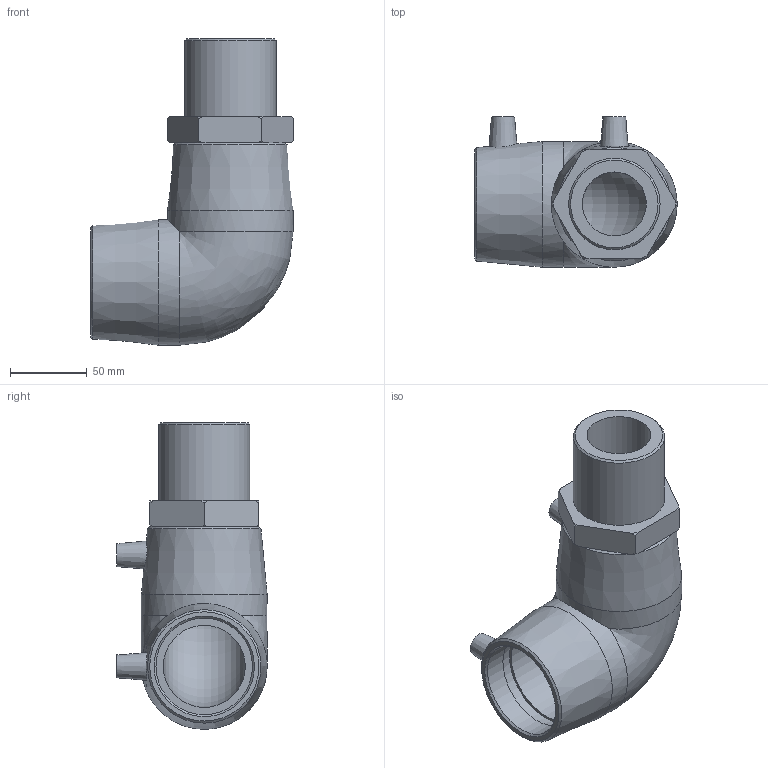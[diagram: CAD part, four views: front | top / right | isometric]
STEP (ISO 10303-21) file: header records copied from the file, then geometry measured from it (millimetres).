
FILE_DESCRIPTION(/* description */ ('PLASSON 90° ELBOW MALE TRANSITION 63 x 2"'),/* implementation_level */ '2;1');
FILE_NAME(/* name */ 'C:\Dropbox\KIMPROJECTS-Inventor\99-16-3568-Processing\ElectroFusion Fittings\02.02.20\492504\492504063020N.ipt.stp',/* time_stamp */ '2020-02-02T12:19:35+02:00',/* author */ ('KIM'),/* organization */ (''),/* preprocessor_version */ 'ST-DEVELOPER v15.6',/* originating_system */ 'Autodesk Inventor 2015',/* authorisation */ '');
FILE_SCHEMA (('AUTOMOTIVE_DESIGN { 1 0 10303 214 3 1 1 }'));
Length unit declared in the file: millimetre
Products named in the file (1): 492504063020N
Bounding box: 132 x 98 x 200 mm (x, y, z)
Volume: 570566.7 mm3; surface area: 108173.2 mm2
Topology: 1 solids, 2 shells, 59 faces, 134 edges, 87 vertices
Faces by surface type: plane 22, cone 22, cylinder 13, bspline 1, torus 1
Full cylindrical faces by diameter (mm): 4 x2, 10 x2, 41.73 x1, 47 x1, 59.614 x1, 63 x4, 82 x2
Entity records: 1514 total; most frequent: CARTESIAN_POINT 371, DIRECTION 238, ORIENTED_EDGE 190, AXIS2_PLACEMENT_3D 110, EDGE_LOOP 99, EDGE_CURVE 95, VERTEX_POINT 76, FACE_OUTER_BOUND 59
